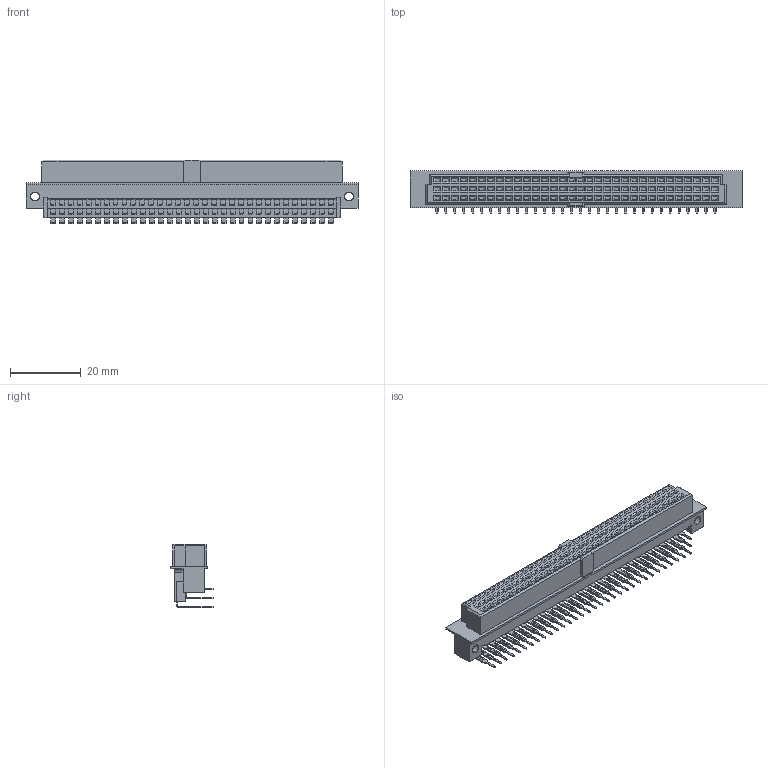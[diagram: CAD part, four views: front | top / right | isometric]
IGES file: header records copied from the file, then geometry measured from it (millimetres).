
Start section: SolidWorks IGES file using analytic representation for surfaces
Global section: file name: F:\ChengQQ\zhuomian\meiri\王格格\9001-B14961C00A-HA.IGS,15; native system: HSolidWorks 2011; preprocessor: SolidWorks 2011; author: knoprd64; date: 141112.154635; units: millimetre
Bounding box: 94 x 11.95 x 18.07 mm (x, y, z)
Surface area: 12588.1 mm2 (no closed solid volume)
Topology: 0 solids, 0 shells, 7392 faces, 48954 edges, 48954 vertices
Faces by surface type: bspline 6202, revolution 1190
